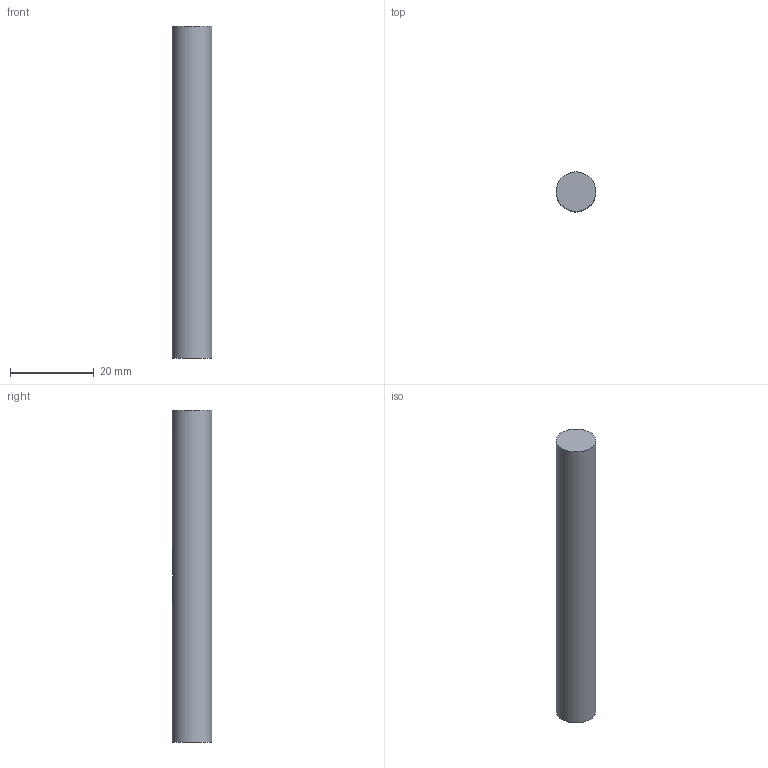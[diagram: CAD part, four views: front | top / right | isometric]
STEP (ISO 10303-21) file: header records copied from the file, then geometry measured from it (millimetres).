
FILE_DESCRIPTION(/* description */ (''),/* implementation_level */ '2;1');
FILE_NAME(/* name */ 'Knee_countershaft v1.step',/* time_stamp */ '2025-10-21T12:09:27-07:00',/* author */ (''),/* organization */ (''),/* preprocessor_version */ 'ST-DEVELOPER v20.1',/* originating_system */ 'Autodesk Translation Framework v14.17.0.0',/* authorisation */ '');
FILE_SCHEMA (('AUTOMOTIVE_DESIGN { 1 0 10303 214 3 1 1 }'));
Length unit declared in the file: inch
Products named in the file (1): Knee_countershaft
Bounding box: 9.51 x 9.51 x 79.5 mm (x, y, z)
Volume: 5606.8 mm3; surface area: 2549.8 mm2
Topology: 1 solids, 1 shells, 8 faces, 15 edges, 10 vertices
Faces by surface type: plane 5, cylinder 3
Full cylindrical faces by diameter (mm): 9.51 x1
Entity records: 268 total; most frequent: CARTESIAN_POINT 68, DIRECTION 35, ORIENTED_EDGE 30, EDGE_CURVE 15, AXIS2_PLACEMENT_3D 13, VERTEX_POINT 10, EDGE_LOOP 9, LINE 9
